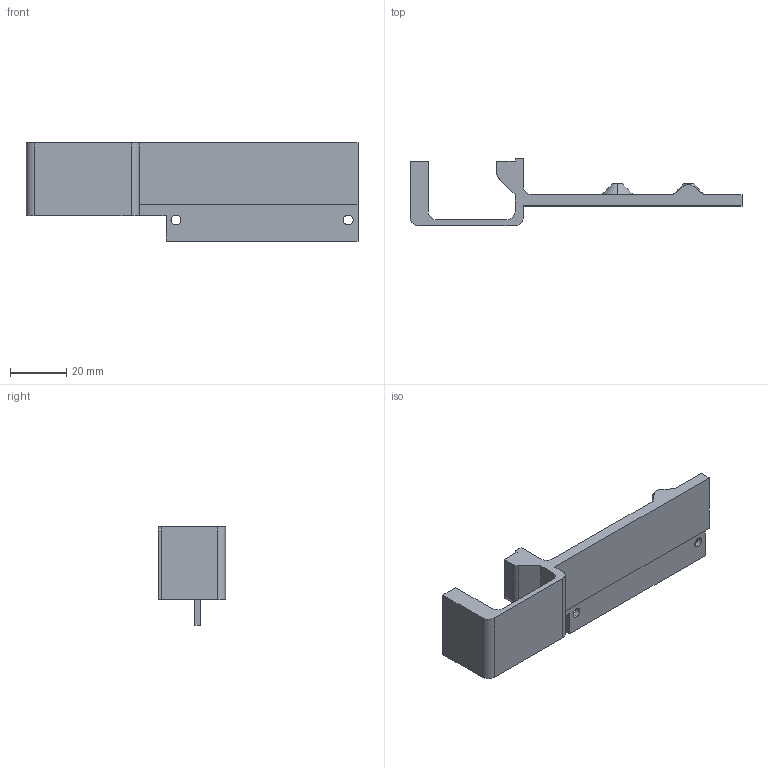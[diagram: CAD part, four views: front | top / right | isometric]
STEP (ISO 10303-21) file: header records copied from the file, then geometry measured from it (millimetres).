
FILE_DESCRIPTION (( 'STEP AP214' ), '1' );
FILE_NAME ('RTC_RJ45_Bracket.STEP', '2015-02-27T03:08:01', ( '' ), ( '' ), '', '', '' );
FILE_SCHEMA (( '' ));
Length unit declared in the file: millimetre
Products named in the file (1): RTC_RJ45_Bracket
Bounding box: 118.5 x 24 x 35 mm (x, y, z)
Volume: 15051.9 mm3; surface area: 13592.6 mm2
Topology: 1 solids, 2 shells, 83 faces, 219 edges, 145 vertices
Faces by surface type: plane 48, cylinder 28, cone 6, sphere 1
Entity records: 2638 total; most frequent: CARTESIAN_POINT 498, DIRECTION 445, ORIENTED_EDGE 438, EDGE_CURVE 219, AXIS2_PLACEMENT_3D 150, VERTEX_POINT 145, VECTOR 145, LINE 145
